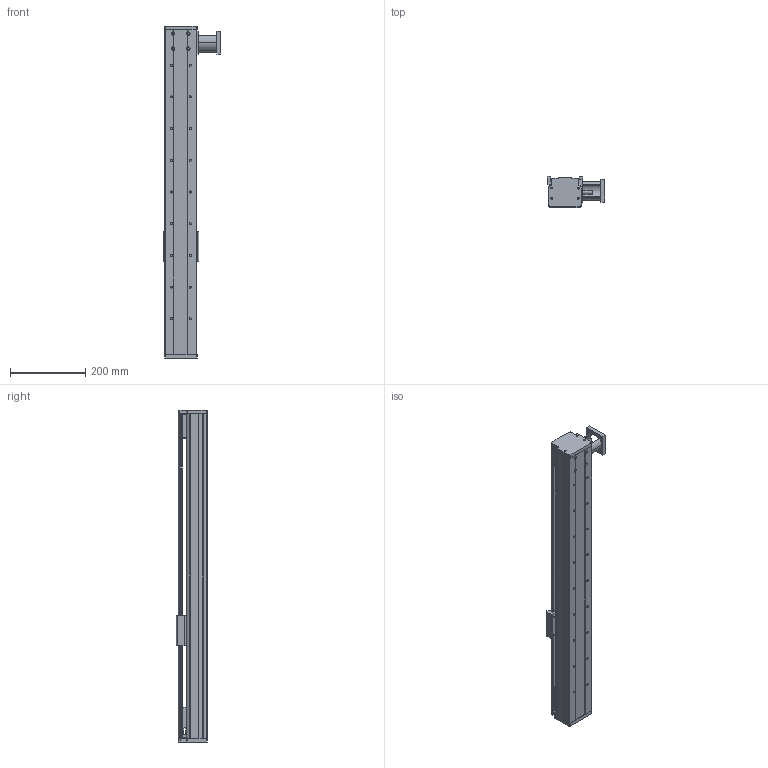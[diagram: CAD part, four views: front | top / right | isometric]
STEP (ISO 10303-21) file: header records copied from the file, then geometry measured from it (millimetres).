
FILE_DESCRIPTION (( 'STEP AP214' ), '1' );
FILE_NAME ('CF86-500-FWR.STEP', '2016-07-20T23:46:13', ( 'Sky123.Org' ), ( 'Sky123.Org' ), 'SwSTEP 2.0', 'SolidWorks 2015', '' );
FILE_SCHEMA (( 'AUTOMOTIVE_DESIGN' ));
Length unit declared in the file: millimetre
Products named in the file (16): deep groove ball bearings gb_Rolling bearings 6000 GB 276-94; 翋雄粣; 86裔啣; 萇儂蟀諉ん; 86耜啣; CF86植雄耜; CF86賑輸; 翋雄釱; EGW15CA賑輸; EGR15絳寢; 86臏倰第; CF86-500-FWR; 粣創結啣; 植雄粣; 肮祭謫5m21喘詢25-27; 36肮祭謫
Assembly tree (17 placements, depth 2):
  CF86-500-FWR
    86臏倰第
    EGR15絳寢
    EGW15CA賑輸
    翋雄釱
    CF86賑輸
    CF86植雄耜
    86耜啣  x2
    萇儂蟀諉ん
    86裔啣
    翋雄粣
    deep groove ball bearings gb_Rolling bearings 6000 GB 276-94  x2
    36肮祭謫
    肮祭謫5m21喘詢25-27
    植雄粣
    粣創結啣
Bounding box: 152.49 x 83.35 x 880 mm (x, y, z)
Volume: 2313651.1 mm3; surface area: 818892 mm2
Topology: 17 solids, 17 shells, 991 faces, 3147 edges, 2100 vertices
Faces by surface type: plane 454, cylinder 385, torus 100, sphere 52
Entity records: 31994 total; most frequent: CARTESIAN_POINT 7219, ORIENTED_EDGE 5080, DIRECTION 4897, EDGE_CURVE 2540, AXIS2_PLACEMENT_3D 1725, VERTEX_POINT 1691, LINE 1447, VECTOR 1447
